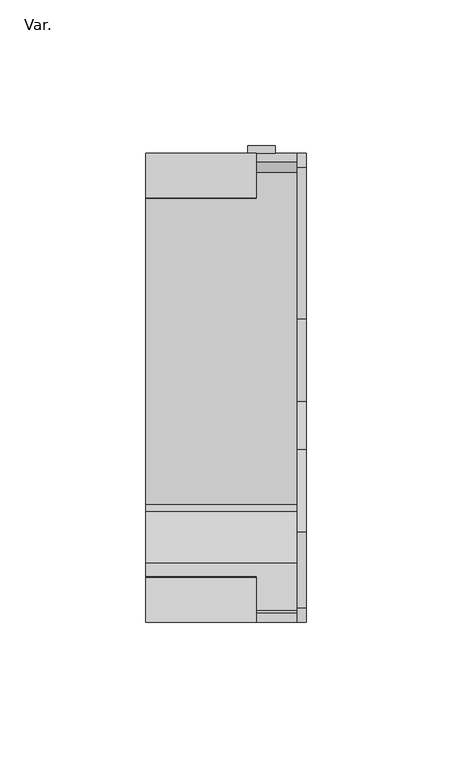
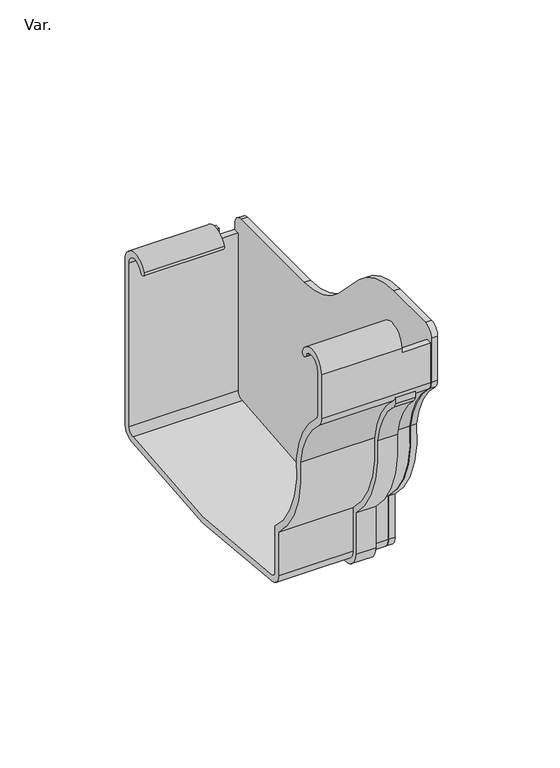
"""IFC4 building model written with IfcOpenShell, lengths in millimetres: pipe fitting geometry, PavcoWavin_UnionesDeTuberia_Canal Amazona_Tapa Derecha Externa : Var.."""

from ifc_helpers import new_model, si_unit, frame, origin, place, context, project, spatial, polyline, circle_curve, source, transform, mapped, element, save
from ifc_brep_helpers import plane_surface, cylinder_surface, revolved_surface, advanced_brep


def var_4cc623fb(model_context):
    return source(origin(), model_context, "Body", "AdvancedBrep", [
        advanced_brep(
        [(55.0, 63.9329759, 95.4959393), (55.0, 58.9329759, 100.4959393), (55.0, 7.0879779, 100.4959393), (55.0, -21.1962934, 112.2116681), (55.0, -37.7689071, 128.7842818), (55.0, -66.0531783, 140.5000106), (55.0, -92.0620322, 140.5000106), (55.0, -97.0620322, 135.5000106), (55.0, -97.0620322, 113.5508008), (55.0, -95.0881417, 109.0993235), (55.0, -79.7697905, 81.3073788), (55.0, -62.0670241, 35.6709016), (55.0, -62.0670241, 13.8960326), (55.0, -57.1983327, 7.9880254), (55.0, 57.5122662, 7.8581156), (55.0, 63.9333621, 13.8433205), (52.0, 63.9333621, 95.4959393), (52.0, 63.9333621, 13.8433205), (52.0, 57.5122662, 7.8581156), (52.0, -57.1983327, 7.9880254), (52.0, -62.0670241, 13.8960326), (52.0, -62.0670241, 35.6709016), (52.0, -79.7697905, 81.3073788), (52.0, -95.0881417, 109.0993235), (52.0, -97.0620322, 113.5508008), (52.0, -97.0620322, 135.5000106), (52.0, -92.0620322, 140.5000106), (52.0, -66.0531783, 140.5000106), (52.0, -37.768907, 128.7842818), (52.0, -21.1962934, 112.2116681), (52.0, 7.0879779, 100.4959393), (52.0, 58.9329759, 100.4959393)],
        [
            (0, 1, circle_curve(frame((55.0, 58.9329759, 95.4959393), z_axis=(1.0, 0.0, 0.0), x_axis=(0.0, -1.0, 0.0)), 5.0)),
            (1, 2),
            (2, 3, circle_curve(frame((55.0, 7.0879779, 140.4959393), z_axis=(-1.0, 0.0, 0.0), x_axis=(0.0, -1.0, 0.0)), 40.0)),
            (3, 4),
            (4, 5, circle_curve(frame((55.0, -66.0531783, 100.5000106), z_axis=(1.0, 0.0, 0.0), x_axis=(0.0, -1.0, 0.0)), 40.0)),
            (5, 6),
            (6, 7, circle_curve(frame((55.0, -92.0620322, 135.5000106), z_axis=(1.0, 0.0, 0.0), x_axis=(0.0, -1.0, 0.0)), 5.0)),
            (7, 8),
            (8, 9, circle_curve(frame((55.0, -91.0556468, 113.5508008), z_axis=(1.0, 0.0, 0.0), x_axis=(0.0, -1.0, 0.0)), 6.0063854)),
            (9, 10, circle_curve(frame((55.0, -127.8669225, 72.914777), z_axis=(-1.0, 0.0, 0.0), x_axis=(0.0, -1.0, 0.0)), 48.8238658)),
            (10, 11, circle_curve(frame((55.0, -27.0899596, 75.4905571), z_axis=(1.0, 0.0, 0.0), x_axis=(0.0, -1.0, 0.0)), 53.0)),
            (11, 12),
            (12, 13, circle_curve(frame((55.0, -56.048086, 13.8960326), z_axis=(1.0, 0.0, 0.0), x_axis=(0.0, -1.0, 0.0)), 6.0189381)),
            (13, 14, circle_curve(frame((55.0, 0.4926203, 304.3058025), z_axis=(1.0, 0.0, 0.0), x_axis=(0.0, -1.0, 0.0)), 301.8815514)),
            (14, 15, circle_curve(frame((55.0, 57.9333621, 13.8433205), z_axis=(1.0, 0.0, 0.0), x_axis=(0.0, -1.0, 0.0)), 6.0)),
            (15, 0),
            (16, 17),
            (17, 18, circle_curve(frame((52.0, 57.9333621, 13.8433205), z_axis=(-1.0, 0.0, 0.0), x_axis=(0.0, -1.0, 0.0)), 6.0)),
            (18, 19, circle_curve(frame((52.0, 0.4926203, 304.3058025), z_axis=(-1.0, 0.0, 0.0), x_axis=(0.0, -1.0, 0.0)), 301.8815514)),
            (19, 20, circle_curve(frame((52.0, -56.048086, 13.8960326), z_axis=(-1.0, 0.0, 0.0), x_axis=(0.0, -1.0, 0.0)), 6.0189381)),
            (20, 21),
            (21, 22, circle_curve(frame((52.0, -27.0899596, 75.4905571), z_axis=(-1.0, 0.0, 0.0), x_axis=(0.0, -1.0, 0.0)), 53.0)),
            (22, 23, circle_curve(frame((52.0, -127.8669225, 72.914777), z_axis=(1.0, 0.0, 0.0), x_axis=(0.0, -1.0, 0.0)), 48.8238658)),
            (23, 24, circle_curve(frame((52.0, -91.0556468, 113.5508008), z_axis=(-1.0, 0.0, 0.0), x_axis=(0.0, -1.0, 0.0)), 6.0063854)),
            (24, 25),
            (25, 26, circle_curve(frame((52.0, -92.0620322, 135.5000106), z_axis=(-1.0, 0.0, 0.0), x_axis=(0.0, -1.0, 0.0)), 5.0)),
            (26, 27),
            (27, 28, circle_curve(frame((52.0, -66.0531783, 100.5000106), z_axis=(-1.0, 0.0, 0.0), x_axis=(0.0, -1.0, 0.0)), 40.0)),
            (28, 29),
            (29, 30, circle_curve(frame((52.0, 7.0879779, 140.4959393), z_axis=(1.0, 0.0, 0.0), x_axis=(0.0, -1.0, 0.0)), 40.0)),
            (30, 31),
            (31, 16, circle_curve(frame((52.0, 58.9329759, 95.4959393), z_axis=(-1.0, 0.0, 0.0), x_axis=(0.0, -1.0, 0.0)), 5.0)),
            (1, 31),
            (30, 2),
            (29, 3),
            (28, 4),
            (27, 5),
            (26, 6),
            (7, 25),
            (24, 8),
            (23, 9),
            (22, 10),
            (21, 11),
            (20, 12),
            (19, 13),
            (18, 14),
            (17, 15),
            (16, 0),
        ],
        [
            plane_surface(frame((55.0, 53.9329759, 95.4959393), z_axis=(1.0, 0.0, 0.0), x_axis=(0.0, 0.0, -1.0))),
            plane_surface(frame((52.0, 53.9329759, 95.4959393), z_axis=(-1.0, 0.0, 0.0), x_axis=(0.0, 0.0, 1.0))),
            plane_surface(frame((55.0, 58.9329759, 100.4959393), z_axis=(0.0, 0.0, 1.0), x_axis=(-1.0, 0.0, 0.0))),
            revolved_surface(polyline([(52.0, -32.9120221, 140.4959393), (55.0, -32.9120221, 140.4959393)]), (52.0, 7.0879779, 140.4959393), (-1.0, 0.0, 0.0)),
            plane_surface(frame((55.0, -21.1962934, 112.2116681), z_axis=(0.0, 0.7071067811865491, 0.7071067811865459), x_axis=(-1.0, 0.0, 0.0))),
            cylinder_surface(frame((52.0, -66.0531783, 100.5000106), z_axis=(1.0, 0.0, 0.0), x_axis=(0.0, -1.0, 0.0)), 40.0),
            plane_surface(frame((55.0, -66.0531783, 140.5000106), z_axis=(0.0, 0.0, 1.0), x_axis=(-1.0, 0.0, 0.0))),
            plane_surface(frame((55.0, -97.0620322, 135.5000106), z_axis=(0.0, -1.0, 0.0), x_axis=(-1.0, 0.0, 0.0))),
            cylinder_surface(frame((52.0, -91.0556468, 113.5508008), z_axis=(1.0, 0.0, 0.0), x_axis=(0.0, -1.0, 0.0)), 6.0063854),
            revolved_surface(polyline([(52.0, -176.6907883, 72.914777), (55.0, -176.6907883, 72.914777)]), (52.0, -127.8669225, 72.914777), (-1.0, 0.0, 0.0)),
            cylinder_surface(frame((52.0, -27.0899596, 75.4905571), z_axis=(1.0, 0.0, 0.0), x_axis=(0.0, -1.0, 0.0)), 53.0),
            plane_surface(frame((55.0, -62.0670241, 35.6709016), z_axis=(0.0, -1.0, 0.0), x_axis=(-1.0, 0.0, 0.0))),
            cylinder_surface(frame((52.0, -56.048086, 13.8960326), z_axis=(1.0, 0.0, 0.0), x_axis=(0.0, -1.0, 0.0)), 6.0189381),
            cylinder_surface(frame((52.0, 0.4926203, 304.3058025), z_axis=(1.0, 0.0, 0.0), x_axis=(0.0, -1.0, 0.0)), 301.8815514),
            cylinder_surface(frame((52.0, 57.9333621, 13.8433205), z_axis=(1.0, 0.0, 0.0), x_axis=(0.0, -1.0, 0.0)), 6.0),
            plane_surface(frame((55.0, 63.9333621, 13.8433205), z_axis=(0.0, 1.0, 0.0), x_axis=(-1.0, 0.0, 0.0))),
            cylinder_surface(frame((52.0, 58.9329759, 95.4959393), z_axis=(1.0, 0.0, 0.0), x_axis=(0.0, -1.0, 0.0)), 5.0),
            cylinder_surface(frame((52.0, -92.0620322, 135.5000106), z_axis=(1.0, 0.0, 0.0), x_axis=(0.0, -1.0, 0.0)), 5.0),
        ],
        [
            (0, [[1, 2, 3, 4, 5, 6, 7, 8, 9, 10, 11, 12, 13, 14, 15, 16]]),
            (1, [[17, 18, 19, 20, 21, 22, 23, 24, 25, 26, 27, 28, 29, 30, 31, 32]]),
            (2, [[-2, 33, -31, 34]]),
            (3, [[-3, -34, -30, 35]]),
            (4, [[-4, -35, -29, 36]]),
            (5, [[-5, -36, -28, 37]]),
            (6, [[-6, -37, -27, 38]]),
            (7, [[-8, 39, -25, 40]]),
            (8, [[-9, -40, -24, 41]]),
            (9, [[-10, -41, -23, 42]]),
            (10, [[-11, -42, -22, 43]]),
            (11, [[-12, -43, -21, 44]]),
            (12, [[-13, -44, -20, 45]]),
            (13, [[-14, -45, -19, 46]]),
            (14, [[-15, -46, -18, 47]]),
            (15, [[-16, -47, -17, 48]]),
            (16, [[-1, -48, -32, -33]]),
            (17, [[-7, -38, -26, -39]]),
        ],
    ),
        advanced_brep(
        [(52.0, 60.9329759, 13.8914566), (52.0, 57.4012665, 10.8908852), (52.0, -56.6326886, 10.9342173), (52.0, -59.0670241, 13.8914566), (52.0, -59.0670241, 37.0527196), (52.0, -76.7459019, 81.3461013), (52.0, -93.0036751, 111.2638765), (52.0, -94.0620322, 113.5508008), (52.0, -94.0620322, 133.3051321), (52.0, -97.0620322, 133.3051321), (52.0, -97.0620322, 113.5508008), (52.0, -94.9541627, 108.9844762), (52.0, -79.7697905, 81.3073788), (52.0, -62.0670241, 35.6709016), (52.0, -62.0670241, 13.8960326), (52.0, -57.1983327, 7.9880254), (52.0, 57.5122662, 7.8581156), (52.0, 63.9329759, 13.9113963), (52.0, 63.9329759, 92.5142277), (52.0, 60.9329759, 92.5142277), (0.0, 60.9329759, 95.4959393), (0.0, 51.2387165, 97.2175456), (0.0, 48.4221608, 98.2505094), (0.0, 63.9329759, 95.4959393), (0.0, 63.9329759, 13.9113963), (0.0, 57.5122662, 7.8581156), (0.0, -57.1983327, 7.9880254), (0.0, -62.0670241, 13.8960326), (0.0, -62.0670241, 35.6709016), (0.0, -79.7697905, 81.3073788), (0.0, -94.9541627, 108.9844762), (0.0, -97.0620322, 113.5508008), (0.0, -97.0620322, 135.5000106), (0.0, -81.5512171, 138.2545807), (0.0, -84.3677728, 137.2216169), (0.0, -94.0620322, 135.5000106), (0.0, -94.0620322, 113.5508008), (0.0, -93.0036751, 111.2638765), (0.0, -76.7459019, 81.3461013), (0.0, -59.0670241, 37.0527196), (0.0, -59.0670241, 13.8914566), (0.0, -56.6326886, 10.9342173), (0.0, 57.4012665, 10.8908852), (0.0, 60.9329759, 13.8914566), (38.0, 60.9329759, 92.5142277), (38.0, 60.9329759, 95.4959393), (38.0, -94.0620322, 135.5000106), (38.0, -94.0620322, 133.3051321), (38.0, -84.3677728, 137.2216169), (38.0, -81.5512171, 138.2545807), (38.0, -97.0620322, 135.5000106), (38.0, -97.0620322, 133.3051321), (38.0, 63.9329759, 95.4959393), (38.0, 63.9329759, 92.5142277), (38.0, 48.4221608, 98.2505094), (38.0, 51.2387165, 97.2175456)],
        [
            (0, 1, circle_curve(frame((52.0, 57.9333621, 13.8433205), z_axis=(-1.0, 0.0, 0.0), x_axis=(0.0, 1.0, 0.0)), 3.0)),
            (1, 2, circle_curve(frame((52.0, 0.4973698, 308.4995991), z_axis=(-1.0, 0.0, 0.0), x_axis=(0.0, -1.0, 0.0)), 303.0)),
            (2, 3, circle_curve(frame((52.0, -56.0670445, 13.8804092), z_axis=(-1.0, 0.0, 0.0), x_axis=(0.0, -1.0, 0.0)), 3.0)),
            (3, 4),
            (4, 5, circle_curve(frame((52.0, -27.0899596, 75.4905571), z_axis=(-1.0, 0.0, 0.0), x_axis=(0.0, -1.0, 0.0)), 50.0)),
            (5, 6, circle_curve(frame((52.0, -124.3078979, 74.8764385), z_axis=(1.0, 0.0, 0.0), x_axis=(0.0, -1.0, 0.0)), 48.0)),
            (6, 7, circle_curve(frame((52.0, -91.0620322, 113.5508008), z_axis=(-1.0, 0.0, 0.0), x_axis=(0.0, -1.0, 0.0)), 3.0)),
            (7, 8),
            (8, 9),
            (9, 10),
            (10, 11, circle_curve(frame((52.0, -91.0620322, 113.5508008), z_axis=(1.0, 0.0, 0.0), x_axis=(0.0, -1.0, 0.0)), 6.0)),
            (11, 12, circle_curve(frame((52.0, -124.3078979, 74.8764385), z_axis=(-1.0, 0.0, 0.0), x_axis=(0.0, -1.0, 0.0)), 45.0)),
            (12, 13, circle_curve(frame((52.0, -27.0899596, 75.4905571), z_axis=(1.0, 0.0, 0.0), x_axis=(0.0, -1.0, 0.0)), 53.0)),
            (13, 14),
            (14, 15, circle_curve(frame((52.0, -56.0670445, 13.8804092), z_axis=(1.0, 0.0, 0.0), x_axis=(0.0, -1.0, 0.0)), 6.0)),
            (15, 16, circle_curve(frame((52.0, 0.4973698, 308.4995991), z_axis=(1.0, 0.0, 0.0), x_axis=(0.0, -1.0, 0.0)), 306.0)),
            (16, 17, circle_curve(frame((52.0, 57.9333621, 13.8433205), z_axis=(1.0, 0.0, 0.0), x_axis=(0.0, 1.0, 0.0)), 6.0)),
            (17, 18),
            (18, 19),
            (19, 0),
            (20, 21, circle_curve(frame((0.0, 55.9329759, 95.4959393), z_axis=(1.0, 0.0, 0.0), x_axis=(0.0, 1.0, 0.0)), 5.0)),
            (21, 22, circle_curve(frame((0.0, 49.8304386, 97.7340275), z_axis=(-1.0, 0.0, 0.0), x_axis=(0.0, 1.0, 0.0)), 1.5)),
            (22, 23, circle_curve(frame((0.0, 55.9329759, 95.4959393), z_axis=(-1.0, 0.0, 0.0), x_axis=(0.0, 1.0, 0.0)), 8.0)),
            (23, 24),
            (24, 25, circle_curve(frame((0.0, 57.9333621, 13.8433205), z_axis=(-1.0, 0.0, 0.0), x_axis=(0.0, 1.0, 0.0)), 6.0)),
            (25, 26, circle_curve(frame((0.0, 0.4973698, 308.4995991), z_axis=(-1.0, 0.0, 0.0), x_axis=(0.0, -1.0, 0.0)), 306.0)),
            (26, 27, circle_curve(frame((0.0, -56.0670445, 13.8804092), z_axis=(-1.0, 0.0, 0.0), x_axis=(0.0, -1.0, 0.0)), 6.0)),
            (27, 28),
            (28, 29, circle_curve(frame((0.0, -27.0899596, 75.4905571), z_axis=(-1.0, 0.0, 0.0), x_axis=(0.0, -1.0, 0.0)), 53.0)),
            (29, 30, circle_curve(frame((0.0, -124.3078979, 74.8764385), z_axis=(1.0, 0.0, 0.0), x_axis=(0.0, -1.0, 0.0)), 45.0)),
            (30, 31, circle_curve(frame((0.0, -91.0620322, 113.5508008), z_axis=(-1.0, 0.0, 0.0), x_axis=(0.0, -1.0, 0.0)), 6.0)),
            (31, 32),
            (32, 33, circle_curve(frame((0.0, -89.0620322, 135.5000106), z_axis=(-1.0, 0.0, 0.0), x_axis=(0.0, -1.0, 0.0)), 8.0)),
            (33, 34, circle_curve(frame((0.0, -82.959495, 137.7380988), z_axis=(-1.0, 0.0, 0.0), x_axis=(0.0, -1.0, 0.0)), 1.5)),
            (34, 35, circle_curve(frame((0.0, -89.0620322, 135.5000106), z_axis=(1.0, 0.0, 0.0), x_axis=(0.0, -1.0, 0.0)), 5.0)),
            (35, 36),
            (36, 37, circle_curve(frame((0.0, -91.0620322, 113.5508008), z_axis=(1.0, 0.0, 0.0), x_axis=(0.0, -1.0, 0.0)), 3.0)),
            (37, 38, circle_curve(frame((0.0, -124.3078979, 74.8764385), z_axis=(-1.0, 0.0, 0.0), x_axis=(0.0, -1.0, 0.0)), 48.0)),
            (38, 39, circle_curve(frame((0.0, -27.0899596, 75.4905571), z_axis=(1.0, 0.0, 0.0), x_axis=(0.0, -1.0, 0.0)), 50.0)),
            (39, 40),
            (40, 41, circle_curve(frame((0.0, -56.0670445, 13.8804092), z_axis=(1.0, 0.0, 0.0), x_axis=(0.0, -1.0, 0.0)), 3.0)),
            (41, 42, circle_curve(frame((0.0, 0.4973698, 308.4995991), z_axis=(1.0, 0.0, 0.0), x_axis=(0.0, -1.0, 0.0)), 303.0)),
            (42, 43, circle_curve(frame((0.0, 57.9333621, 13.8433205), z_axis=(1.0, 0.0, 0.0), x_axis=(0.0, 1.0, 0.0)), 3.0)),
            (43, 20),
            (43, 0),
            (19, 44),
            (44, 45),
            (45, 20),
            (42, 1),
            (41, 2),
            (40, 3),
            (39, 4),
            (38, 5),
            (37, 6),
            (36, 7),
            (35, 46),
            (46, 47),
            (47, 8),
            (34, 48),
            (48, 46, circle_curve(frame((38.0, -89.0620322, 135.5000106), z_axis=(1.0, 0.0, 0.0), x_axis=(0.0, -1.0, 0.0)), 5.0)),
            (33, 49),
            (49, 48, circle_curve(frame((38.0, -82.959495, 137.7380988), z_axis=(-1.0, 0.0, 0.0), x_axis=(0.0, -1.0, 0.0)), 1.5)),
            (32, 50),
            (50, 49, circle_curve(frame((38.0, -89.0620322, 135.5000106), z_axis=(-1.0, 0.0, 0.0), x_axis=(0.0, -1.0, 0.0)), 8.0)),
            (31, 10),
            (9, 51),
            (51, 50),
            (30, 11),
            (29, 12),
            (28, 13),
            (27, 14),
            (26, 15),
            (25, 16),
            (24, 17),
            (23, 52),
            (52, 53),
            (53, 18),
            (22, 54),
            (54, 52, circle_curve(frame((38.0, 55.9329759, 95.4959393), z_axis=(-1.0, 0.0, 0.0), x_axis=(0.0, 1.0, 0.0)), 8.0)),
            (21, 55),
            (55, 54, circle_curve(frame((38.0, 49.8304386, 97.7340275), z_axis=(-1.0, 0.0, 0.0), x_axis=(0.0, 1.0, 0.0)), 1.5)),
            (45, 55, circle_curve(frame((38.0, 55.9329759, 95.4959393), z_axis=(1.0, 0.0, 0.0), x_axis=(0.0, 1.0, 0.0)), 5.0)),
            (51, 47),
            (44, 53),
        ],
        [
            plane_surface(frame((52.0, 60.9329759, 14.6874693), z_axis=(1.0, 0.0, 0.0), x_axis=(0.0, 0.0, -1.0))),
            plane_surface(frame((0.0, 60.9329759, 14.6874693), z_axis=(-1.0, 0.0, 0.0), x_axis=(0.0, 0.0, 1.0))),
            plane_surface(frame((52.0, 60.9329759, 95.4959393), z_axis=(0.0, -1.0, 0.0), x_axis=(-1.0, 0.0, 0.0))),
            revolved_surface(polyline([(0.0, 60.9333621, 13.8433205), (52.0, 60.9333621, 13.8433205)]), (0.0, 57.9333621, 13.8433205), (-1.0, 0.0, 0.0)),
            revolved_surface(polyline([(0.0, -302.5026302, 308.4995991), (52.0, -302.5026302, 308.4995991)]), (0.0, 0.4973698, 308.4995991), (-1.0, 0.0, 0.0)),
            revolved_surface(polyline([(0.0, -59.0670445, 13.8804092), (52.0, -59.0670445, 13.8804092)]), (0.0, -56.0670445, 13.8804092), (-1.0, 0.0, 0.0)),
            plane_surface(frame((52.0, -59.0670241, 13.8914566), z_axis=(0.0, 1.0, 0.0), x_axis=(-1.0, 0.0, 0.0))),
            revolved_surface(polyline([(0.0, -77.0899596, 75.4905571), (52.0, -77.0899596, 75.4905571)]), (0.0, -27.0899596, 75.4905571), (-1.0, 0.0, 0.0)),
            cylinder_surface(frame((0.0, -124.3078979, 74.8764385), z_axis=(1.0, 0.0, 0.0), x_axis=(0.0, -1.0, 0.0)), 48.0),
            revolved_surface(polyline([(0.0, -94.0620322, 113.5508008), (52.0, -94.0620322, 113.5508008)]), (0.0, -91.0620322, 113.5508008), (-1.0, 0.0, 0.0)),
            plane_surface(frame((52.0, -94.0620322, 113.5508008), z_axis=(0.0, 1.0, 0.0), x_axis=(-1.0, 0.0, 0.0))),
            revolved_surface(polyline([(0.0, -94.0620322, 135.5000106), (38.0, -94.0620322, 135.5000106)]), (0.0, -89.0620322, 135.5000106), (-1.0, 0.0, 0.0)),
            cylinder_surface(frame((0.0, -82.959495, 137.7380988), z_axis=(1.0, 0.0, 0.0), x_axis=(0.0, -1.0, 0.0)), 1.5),
            cylinder_surface(frame((0.0, -89.0620322, 135.5000106), z_axis=(1.0, 0.0, 0.0), x_axis=(0.0, -1.0, 0.0)), 8.0),
            plane_surface(frame((52.0, -97.0620322, 135.5000106), z_axis=(0.0, -1.0, 0.0), x_axis=(-1.0, 0.0, 0.0))),
            cylinder_surface(frame((0.0, -91.0620322, 113.5508008), z_axis=(1.0, 0.0, 0.0), x_axis=(0.0, -1.0, 0.0)), 6.0),
            revolved_surface(polyline([(0.0, -169.3078979, 74.8764385), (52.0, -169.3078979, 74.8764385)]), (0.0, -124.3078979, 74.8764385), (-1.0, 0.0, 0.0)),
            cylinder_surface(frame((0.0, -27.0899596, 75.4905571), z_axis=(1.0, 0.0, 0.0), x_axis=(0.0, -1.0, 0.0)), 53.0),
            plane_surface(frame((52.0, -62.0670241, 35.6709016), z_axis=(0.0, -1.0, 0.0), x_axis=(-1.0, 0.0, 0.0))),
            cylinder_surface(frame((0.0, -56.0670445, 13.8804092), z_axis=(1.0, 0.0, 0.0), x_axis=(0.0, -1.0, 0.0)), 6.0),
            cylinder_surface(frame((0.0, 0.4973698, 308.4995991), z_axis=(1.0, 0.0, 0.0), x_axis=(0.0, -1.0, 0.0)), 306.0),
            cylinder_surface(frame((0.0, 57.9333621, 13.8433205), z_axis=(1.0, 0.0, 0.0), x_axis=(0.0, 1.0, 0.0)), 6.0),
            plane_surface(frame((52.0, 63.9329759, 13.9113963), z_axis=(0.0, 1.0, 0.0), x_axis=(-1.0, 0.0, 0.0))),
            cylinder_surface(frame((0.0, 55.9329759, 95.4959393), z_axis=(1.0, 0.0, 0.0), x_axis=(0.0, 1.0, 0.0)), 8.0),
            cylinder_surface(frame((0.0, 49.8304386, 97.7340275), z_axis=(1.0, 0.0, 0.0), x_axis=(0.0, 1.0, 0.0)), 1.5),
            revolved_surface(polyline([(0.0, 60.9329759, 95.4959393), (38.0, 60.9329759, 95.4959393)]), (0.0, 55.9329759, 95.4959393), (-1.0, 0.0, 0.0)),
            plane_surface(frame((38.0, -79.8074047, 133.3051321), z_axis=(1.0, 0.0, 0.0), x_axis=(0.0, -1.0, 0.0))),
            plane_surface(frame((52.0, -97.5403218, 133.3051321), z_axis=(0.0, 0.0, 1.0), x_axis=(-1.0, 0.0, 0.0))),
            plane_surface(frame((52.0, 47.3329759, 92.5142277), z_axis=(0.0, 0.0, 1.0), x_axis=(-1.0, 0.0, 0.0))),
        ],
        [
            (0, [[1, 2, 3, 4, 5, 6, 7, 8, 9, 10, 11, 12, 13, 14, 15, 16, 17, 18, 19, 20]]),
            (1, [[21, 22, 23, 24, 25, 26, 27, 28, 29, 30, 31, 32, 33, 34, 35, 36, 37, 38, 39, 40, 41, 42, 43, 44]]),
            (2, [[-44, 45, -20, 46, 47, 48]]),
            (3, [[-1, -45, -43, 49]]),
            (4, [[-2, -49, -42, 50]]),
            (5, [[-3, -50, -41, 51]]),
            (6, [[-4, -51, -40, 52]]),
            (7, [[-5, -52, -39, 53]]),
            (8, [[-6, -53, -38, 54]]),
            (9, [[-7, -54, -37, 55]]),
            (10, [[-36, 56, 57, 58, -8, -55]]),
            (11, [[-35, 59, 60, -56]]),
            (12, [[-34, 61, 62, -59]]),
            (13, [[-33, 63, 64, -61]]),
            (14, [[-32, 65, -10, 66, 67, -63]]),
            (15, [[-11, -65, -31, 68]]),
            (16, [[-12, -68, -30, 69]]),
            (17, [[-13, -69, -29, 70]]),
            (18, [[-14, -70, -28, 71]]),
            (19, [[-15, -71, -27, 72]]),
            (20, [[-16, -72, -26, 73]]),
            (21, [[-17, -73, -25, 74]]),
            (22, [[-24, 75, 76, 77, -18, -74]]),
            (23, [[-23, 78, 79, -75]]),
            (24, [[-22, 80, 81, -78]]),
            (25, [[-21, -48, 82, -80]]),
            (26, [[83, -57, -60, -62, -64, -67]]),
            (26, [[84, -76, -79, -81, -82, -47]]),
            (27, [[-83, -66, -9, -58]]),
            (28, [[-84, -46, -19, -77]]),
        ],
    ),
        advanced_brep(
        [(35.0, 63.9333621, 13.8433205), (35.0, 63.9333621, 95.4959393), (35.0, 66.4333621, 95.4959393), (35.0, 66.4333621, 13.8433205), (35.0, 57.6872434, 5.3468845), (35.0, -57.6697029, 5.5328655), (35.0, -64.5670241, 13.8990047), (35.0, -64.5670241, 34.5550024), (35.0, -82.2895831, 81.2569737), (35.0, -95.5375964, 106.1577389), (35.0, -97.0620322, 108.8443434), (35.0, -97.0620322, 113.5508008), (35.0, -95.0881417, 109.0993235), (35.0, -79.7697905, 81.3073788), (35.0, -62.0670241, 35.6709016), (35.0, -62.0670241, 13.8960326), (35.0, -57.1983327, 7.9880254), (35.0, 57.5122662, 7.8581156), (44.5, 63.9333621, 13.8433205), (44.5, 57.5122662, 7.8581156), (44.5, -57.1983327, 7.9880254), (44.5, -62.0670241, 13.8960326), (44.5, -62.0670241, 35.6709016), (44.5, -79.7697905, 81.3073788), (44.5, -95.0881417, 109.0993235), (44.5, -97.0620322, 113.5508008), (44.5, -97.0620322, 108.8443434), (44.5, -95.5375964, 106.1577389), (44.5, -82.2895831, 81.2569737), (44.5, -64.5670241, 34.5550024), (44.5, -64.5670241, 13.8990047), (44.5, -57.6697029, 5.5328655), (44.5, 57.6872434, 5.3468845), (44.5, 66.4333621, 13.8433205), (44.5, 66.4333621, 95.4959393), (44.5, 63.9333621, 95.4959393)],
        [
            (0, 1),
            (1, 2),
            (2, 3),
            (3, 4, circle_curve(frame((35.0, 57.9333621, 13.8433205), z_axis=(-1.0, 0.0, 0.0), x_axis=(0.0, -1.0, 0.0)), 8.5)),
            (4, 5, circle_curve(frame((35.0, 0.4973698, 308.4995991), z_axis=(-1.0, 0.0, 0.0), x_axis=(0.0, -1.0, 0.0)), 308.5)),
            (5, 6, circle_curve(frame((35.0, -56.0670445, 13.8804092), z_axis=(-1.0, 0.0, 0.0), x_axis=(0.0, -1.0, 0.0)), 8.5)),
            (6, 7),
            (7, 8, circle_curve(frame((35.0, -27.0899596, 75.4905571), z_axis=(-1.0, 0.0, 0.0), x_axis=(0.0, -1.0, 0.0)), 55.5)),
            (8, 9, circle_curve(frame((35.0, -124.3078979, 74.8764385), z_axis=(1.0, 0.0, 0.0), x_axis=(0.0, -1.0, 0.0)), 42.5)),
            (9, 10, circle_curve(frame((35.0, -92.121652, 109.8718183), z_axis=(-1.0, 0.0, 0.0), x_axis=(0.0, -1.0, 0.0)), 5.0460937)),
            (10, 11),
            (11, 12, circle_curve(frame((35.0, -91.4286587, 113.3853985), z_axis=(1.0, 0.0, 0.0), x_axis=(0.0, -1.0, 0.0)), 5.6358012)),
            (12, 13, circle_curve(frame((35.0, -124.3078979, 74.8764385), z_axis=(-1.0, 0.0, 0.0), x_axis=(0.0, -1.0, 0.0)), 45.0)),
            (13, 14, circle_curve(frame((35.0, -27.0899596, 75.4905571), z_axis=(1.0, 0.0, 0.0), x_axis=(0.0, -1.0, 0.0)), 53.0)),
            (14, 15),
            (15, 16, circle_curve(frame((35.0, -56.0670445, 13.8804092), z_axis=(1.0, 0.0, 0.0), x_axis=(0.0, -1.0, 0.0)), 6.0)),
            (16, 17, circle_curve(frame((35.0, 0.4973698, 308.4995991), z_axis=(1.0, 0.0, 0.0), x_axis=(0.0, -1.0, 0.0)), 306.0)),
            (17, 0, circle_curve(frame((35.0, 57.9333621, 13.8433205), z_axis=(1.0, 0.0, 0.0), x_axis=(0.0, -1.0, 0.0)), 6.0)),
            (18, 19, circle_curve(frame((44.5, 57.9333621, 13.8433205), z_axis=(-1.0, 0.0, 0.0), x_axis=(0.0, -1.0, 0.0)), 6.0)),
            (19, 20, circle_curve(frame((44.5, 0.4973698, 308.4995991), z_axis=(-1.0, 0.0, 0.0), x_axis=(0.0, -1.0, 0.0)), 306.0)),
            (20, 21, circle_curve(frame((44.5, -56.0670445, 13.8804092), z_axis=(-1.0, 0.0, 0.0), x_axis=(0.0, -1.0, 0.0)), 6.0)),
            (21, 22),
            (22, 23, circle_curve(frame((44.5, -27.0899596, 75.4905571), z_axis=(-1.0, 0.0, 0.0), x_axis=(0.0, -1.0, 0.0)), 53.0)),
            (23, 24, circle_curve(frame((44.5, -124.3078979, 74.8764385), z_axis=(1.0, 0.0, 0.0), x_axis=(0.0, -1.0, 0.0)), 45.0)),
            (24, 25, circle_curve(frame((44.5, -91.4286587, 113.3853985), z_axis=(-1.0, 0.0, 0.0), x_axis=(0.0, -1.0, 0.0)), 5.6358012)),
            (25, 26),
            (26, 27, circle_curve(frame((44.5, -92.121652, 109.8718183), z_axis=(1.0, 0.0, 0.0), x_axis=(0.0, -1.0, 0.0)), 5.0460937)),
            (27, 28, circle_curve(frame((44.5, -124.3078979, 74.8764385), z_axis=(-1.0, 0.0, 0.0), x_axis=(0.0, -1.0, 0.0)), 42.5)),
            (28, 29, circle_curve(frame((44.5, -27.0899596, 75.4905571), z_axis=(1.0, 0.0, 0.0), x_axis=(0.0, -1.0, 0.0)), 55.5)),
            (29, 30),
            (30, 31, circle_curve(frame((44.5, -56.0670445, 13.8804092), z_axis=(1.0, 0.0, 0.0), x_axis=(0.0, -1.0, 0.0)), 8.5)),
            (31, 32, circle_curve(frame((44.5, 0.4973698, 308.4995991), z_axis=(1.0, 0.0, 0.0), x_axis=(0.0, -1.0, 0.0)), 308.5)),
            (32, 33, circle_curve(frame((44.5, 57.9333621, 13.8433205), z_axis=(1.0, 0.0, 0.0), x_axis=(0.0, -1.0, 0.0)), 8.5)),
            (33, 34),
            (34, 35),
            (35, 18),
            (35, 1),
            (0, 18),
            (17, 19),
            (16, 20),
            (15, 21),
            (14, 22),
            (13, 23),
            (12, 24),
            (11, 25),
            (10, 26),
            (9, 27),
            (8, 28),
            (7, 29),
            (6, 30),
            (5, 31),
            (4, 32),
            (3, 33),
            (2, 34),
        ],
        [
            plane_surface(frame((35.0, 51.9333621, 13.8433205), z_axis=(-1.0, 0.0, 0.0), x_axis=(0.0, 0.0, -1.0))),
            plane_surface(frame((44.5, 51.9333621, 13.8433205), z_axis=(1.0, 0.0, 0.0), x_axis=(0.0, 0.0, 1.0))),
            plane_surface(frame((44.5, 63.9333621, 95.4959393), z_axis=(0.0, -1.0, 0.0), x_axis=(-1.0, 0.0, 0.0))),
            revolved_surface(polyline([(35.0, 51.9333621, 13.8433205), (44.5, 51.9333621, 13.8433205)]), (35.0, 57.9333621, 13.8433205), (-1.0, 0.0, 0.0)),
            revolved_surface(polyline([(35.0, -305.5026302, 308.4995991), (44.5, -305.5026302, 308.4995991)]), (35.0, 0.4973698, 308.4995991), (-1.0, 0.0, 0.0)),
            revolved_surface(polyline([(35.0, -62.0670445, 13.8804092), (44.5, -62.0670445, 13.8804092)]), (35.0, -56.0670445, 13.8804092), (-1.0, 0.0, 0.0)),
            plane_surface(frame((44.5, -62.0670241, 13.8960326), z_axis=(0.0, 1.0, 0.0), x_axis=(-1.0, 0.0, 0.0))),
            revolved_surface(polyline([(35.0, -80.0899596, 75.4905571), (44.5, -80.0899596, 75.4905571)]), (35.0, -27.0899596, 75.4905571), (-1.0, 0.0, 0.0)),
            cylinder_surface(frame((35.0, -124.3078979, 74.8764385), z_axis=(1.0, 0.0, 0.0), x_axis=(0.0, -1.0, 0.0)), 45.0),
            revolved_surface(polyline([(35.0, -97.0644599, 113.3853985), (44.5, -97.0644599, 113.3853985)]), (35.0, -91.4286587, 113.3853985), (-1.0, 0.0, 0.0)),
            plane_surface(frame((44.5, -97.0620322, 113.5508008), z_axis=(0.0, -1.0, 0.0), x_axis=(-1.0, 0.0, 0.0))),
            cylinder_surface(frame((35.0, -92.121652, 109.8718183), z_axis=(1.0, 0.0, 0.0), x_axis=(0.0, -1.0, 0.0)), 5.0460937),
            revolved_surface(polyline([(35.0, -166.8078979, 74.8764385), (44.5, -166.8078979, 74.8764385)]), (35.0, -124.3078979, 74.8764385), (-1.0, 0.0, 0.0)),
            cylinder_surface(frame((35.0, -27.0899596, 75.4905571), z_axis=(1.0, 0.0, 0.0), x_axis=(0.0, -1.0, 0.0)), 55.5),
            plane_surface(frame((44.5, -64.5670241, 34.5550024), z_axis=(0.0, -1.0, 0.0), x_axis=(-1.0, 0.0, 0.0))),
            cylinder_surface(frame((35.0, -56.0670445, 13.8804092), z_axis=(1.0, 0.0, 0.0), x_axis=(0.0, -1.0, 0.0)), 8.5),
            cylinder_surface(frame((35.0, 0.4973698, 308.4995991), z_axis=(1.0, 0.0, 0.0), x_axis=(0.0, -1.0, 0.0)), 308.5),
            cylinder_surface(frame((35.0, 57.9333621, 13.8433205), z_axis=(1.0, 0.0, 0.0), x_axis=(0.0, -1.0, 0.0)), 8.5),
            plane_surface(frame((44.5, 66.4333621, 13.8433205), z_axis=(0.0, 1.0, 0.0), x_axis=(-1.0, 0.0, 0.0))),
            plane_surface(frame((44.5, 66.4333621, 95.4959393), z_axis=(0.0, 0.0, 1.0), x_axis=(-1.0, 0.0, 0.0))),
        ],
        [
            (0, [[1, 2, 3, 4, 5, 6, 7, 8, 9, 10, 11, 12, 13, 14, 15, 16, 17, 18]]),
            (1, [[19, 20, 21, 22, 23, 24, 25, 26, 27, 28, 29, 30, 31, 32, 33, 34, 35, 36]]),
            (2, [[-36, 37, -1, 38]]),
            (3, [[-19, -38, -18, 39]]),
            (4, [[-20, -39, -17, 40]]),
            (5, [[-21, -40, -16, 41]]),
            (6, [[-22, -41, -15, 42]]),
            (7, [[-23, -42, -14, 43]]),
            (8, [[-24, -43, -13, 44]]),
            (9, [[-25, -44, -12, 45]]),
            (10, [[-26, -45, -11, 46]]),
            (11, [[-27, -46, -10, 47]]),
            (12, [[-28, -47, -9, 48]]),
            (13, [[-29, -48, -8, 49]]),
            (14, [[-30, -49, -7, 50]]),
            (15, [[-31, -50, -6, 51]]),
            (16, [[-32, -51, -5, 52]]),
            (17, [[-33, -52, -4, 53]]),
            (18, [[-34, -53, -3, 54]]),
            (19, [[-35, -54, -2, -37]]),
        ],
    ),
    ])


if __name__ == "__main__":
    model = new_model("IFC4")
    model_context = context("Model", 3, world=origin())
    ifc_project = project(units=[si_unit("LENGTHUNIT", "METRE", prefix="MILLI")], contexts=[model_context])
    site = spatial("IfcSite", under=ifc_project)
    building = spatial("IfcBuilding", under=site)
    placement = place(None, origin())
    var_shape = var_4cc623fb(model_context)
    element("IfcPipeFitting", 1, ObjectType="PavcoWavin_UnionesDeTuberia_Canal Amazona_Tapa Derecha Externa : Var.", at=placement, inside=building, context=model_context, shape_type="MappedRepresentation", body=[
        mapped(var_shape, transform((0.0, 0.0, 0.0), x_axis=(1.0, 0.0, 0.0), y_axis=(0.0, 1.0, 0.0), z_axis=(0.0, 0.0, 1.0))),
    ])
    save(model, "model.ifc")
